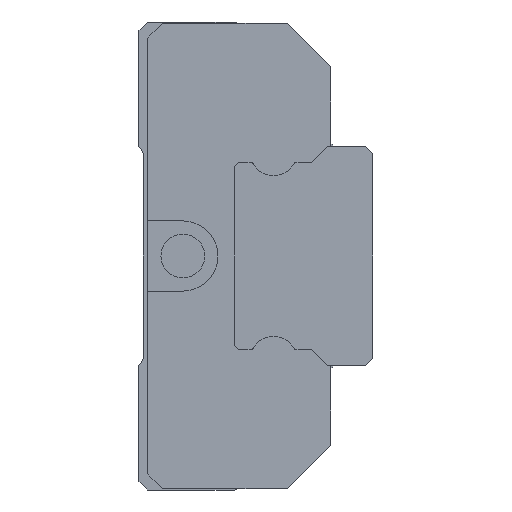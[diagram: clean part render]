
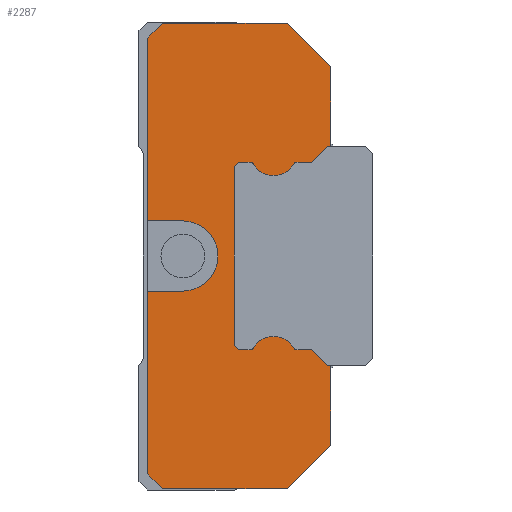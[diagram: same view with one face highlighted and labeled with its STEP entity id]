
A CAD part, left-side view. The second image highlights one B-rep face of the part: STEP entity #2287.
In plain terms, the highlighted planar face has unit normal (-1, 0, 0).
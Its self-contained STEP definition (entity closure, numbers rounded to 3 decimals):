
#80=CIRCLE('',#2463,2.4);
#81=CIRCLE('',#2464,0.15);
#82=CIRCLE('',#2465,1.6);
#83=CIRCLE('',#2466,0.15);
#84=CIRCLE('',#2467,0.15);
#85=CIRCLE('',#2468,1.6);
#86=CIRCLE('',#2469,0.15);
#254=ORIENTED_EDGE('',*,*,#838,.T.);
#255=ORIENTED_EDGE('',*,*,#839,.T.);
#256=ORIENTED_EDGE('',*,*,#840,.T.);
#257=ORIENTED_EDGE('',*,*,#836,.F.);
#258=ORIENTED_EDGE('',*,*,#841,.F.);
#259=ORIENTED_EDGE('',*,*,#842,.F.);
#260=ORIENTED_EDGE('',*,*,#843,.F.);
#261=ORIENTED_EDGE('',*,*,#844,.F.);
#262=ORIENTED_EDGE('',*,*,#845,.T.);
#263=ORIENTED_EDGE('',*,*,#846,.T.);
#264=ORIENTED_EDGE('',*,*,#847,.T.);
#265=ORIENTED_EDGE('',*,*,#848,.T.);
#266=ORIENTED_EDGE('',*,*,#849,.F.);
#267=ORIENTED_EDGE('',*,*,#850,.T.);
#268=ORIENTED_EDGE('',*,*,#851,.T.);
#269=ORIENTED_EDGE('',*,*,#852,.T.);
#270=ORIENTED_EDGE('',*,*,#853,.T.);
#271=ORIENTED_EDGE('',*,*,#854,.T.);
#272=ORIENTED_EDGE('',*,*,#855,.T.);
#273=ORIENTED_EDGE('',*,*,#856,.T.);
#274=ORIENTED_EDGE('',*,*,#857,.F.);
#275=ORIENTED_EDGE('',*,*,#858,.T.);
#276=ORIENTED_EDGE('',*,*,#859,.T.);
#277=ORIENTED_EDGE('',*,*,#860,.T.);
#278=ORIENTED_EDGE('',*,*,#861,.T.);
#279=ORIENTED_EDGE('',*,*,#862,.F.);
#280=ORIENTED_EDGE('',*,*,#863,.F.);
#281=ORIENTED_EDGE('',*,*,#864,.F.);
#282=ORIENTED_EDGE('',*,*,#865,.F.);
#283=ORIENTED_EDGE('',*,*,#832,.F.);
#832=EDGE_CURVE('',#1138,#1139,#1358,.T.);
#836=EDGE_CURVE('',#1142,#1143,#1362,.T.);
#838=EDGE_CURVE('',#1138,#1144,#1364,.T.);
#839=EDGE_CURVE('',#1144,#1145,#80,.T.);
#840=EDGE_CURVE('',#1145,#1143,#1365,.T.);
#841=EDGE_CURVE('',#1146,#1142,#1366,.T.);
#842=EDGE_CURVE('',#1147,#1146,#1367,.T.);
#843=EDGE_CURVE('',#1148,#1147,#1368,.T.);
#844=EDGE_CURVE('',#1149,#1148,#1369,.T.);
#845=EDGE_CURVE('',#1149,#1150,#1370,.T.);
#846=EDGE_CURVE('',#1150,#1151,#1371,.T.);
#847=EDGE_CURVE('',#1151,#1152,#1372,.T.);
#848=EDGE_CURVE('',#1152,#1153,#81,.T.);
#849=EDGE_CURVE('',#1154,#1153,#82,.T.);
#850=EDGE_CURVE('',#1154,#1155,#83,.T.);
#851=EDGE_CURVE('',#1155,#1156,#1373,.T.);
#852=EDGE_CURVE('',#1156,#1157,#1374,.T.);
#853=EDGE_CURVE('',#1157,#1158,#1375,.T.);
#854=EDGE_CURVE('',#1158,#1159,#1376,.T.);
#855=EDGE_CURVE('',#1159,#1160,#1377,.T.);
#856=EDGE_CURVE('',#1160,#1161,#84,.T.);
#857=EDGE_CURVE('',#1162,#1161,#85,.T.);
#858=EDGE_CURVE('',#1162,#1163,#86,.T.);
#859=EDGE_CURVE('',#1163,#1164,#1378,.T.);
#860=EDGE_CURVE('',#1164,#1165,#1379,.T.);
#861=EDGE_CURVE('',#1165,#1166,#1380,.T.);
#862=EDGE_CURVE('',#1167,#1166,#1381,.T.);
#863=EDGE_CURVE('',#1168,#1167,#1382,.T.);
#864=EDGE_CURVE('',#1169,#1168,#1383,.T.);
#865=EDGE_CURVE('',#1139,#1169,#1384,.T.);
#1138=VERTEX_POINT('',#3381);
#1139=VERTEX_POINT('',#3383);
#1142=VERTEX_POINT('',#3389);
#1143=VERTEX_POINT('',#3391);
#1144=VERTEX_POINT('',#3395);
#1145=VERTEX_POINT('',#3397);
#1146=VERTEX_POINT('',#3400);
#1147=VERTEX_POINT('',#3402);
#1148=VERTEX_POINT('',#3404);
#1149=VERTEX_POINT('',#3406);
#1150=VERTEX_POINT('',#3408);
#1151=VERTEX_POINT('',#3410);
#1152=VERTEX_POINT('',#3412);
#1153=VERTEX_POINT('',#3414);
#1154=VERTEX_POINT('',#3416);
#1155=VERTEX_POINT('',#3418);
#1156=VERTEX_POINT('',#3420);
#1157=VERTEX_POINT('',#3422);
#1158=VERTEX_POINT('',#3424);
#1159=VERTEX_POINT('',#3426);
#1160=VERTEX_POINT('',#3428);
#1161=VERTEX_POINT('',#3430);
#1162=VERTEX_POINT('',#3432);
#1163=VERTEX_POINT('',#3434);
#1164=VERTEX_POINT('',#3436);
#1165=VERTEX_POINT('',#3438);
#1166=VERTEX_POINT('',#3440);
#1167=VERTEX_POINT('',#3442);
#1168=VERTEX_POINT('',#3444);
#1169=VERTEX_POINT('',#3446);
#1358=LINE('',#3382,#1634);
#1362=LINE('',#3390,#1638);
#1364=LINE('',#3394,#1640);
#1365=LINE('',#3398,#1641);
#1366=LINE('',#3399,#1642);
#1367=LINE('',#3401,#1643);
#1368=LINE('',#3403,#1644);
#1369=LINE('',#3405,#1645);
#1370=LINE('',#3407,#1646);
#1371=LINE('',#3409,#1647);
#1372=LINE('',#3411,#1648);
#1373=LINE('',#3419,#1649);
#1374=LINE('',#3421,#1650);
#1375=LINE('',#3423,#1651);
#1376=LINE('',#3425,#1652);
#1377=LINE('',#3427,#1653);
#1378=LINE('',#3435,#1654);
#1379=LINE('',#3437,#1655);
#1380=LINE('',#3439,#1656);
#1381=LINE('',#3441,#1657);
#1382=LINE('',#3443,#1658);
#1383=LINE('',#3445,#1659);
#1384=LINE('',#3447,#1660);
#1634=VECTOR('',#2744,1000.);
#1638=VECTOR('',#2748,1000.);
#1640=VECTOR('',#2752,1000.);
#1641=VECTOR('',#2755,1000.);
#1642=VECTOR('',#2756,1000.);
#1643=VECTOR('',#2757,1000.);
#1644=VECTOR('',#2758,1000.);
#1645=VECTOR('',#2759,1000.);
#1646=VECTOR('',#2760,1000.);
#1647=VECTOR('',#2761,1000.);
#1648=VECTOR('',#2762,1000.);
#1649=VECTOR('',#2769,1000.);
#1650=VECTOR('',#2770,1000.);
#1651=VECTOR('',#2771,1000.);
#1652=VECTOR('',#2772,1000.);
#1653=VECTOR('',#2773,1000.);
#1654=VECTOR('',#2780,1000.);
#1655=VECTOR('',#2781,1000.);
#1656=VECTOR('',#2782,1000.);
#1657=VECTOR('',#2783,1000.);
#1658=VECTOR('',#2784,1000.);
#1659=VECTOR('',#2785,1000.);
#1660=VECTOR('',#2786,1000.);
#1899=EDGE_LOOP('',(#254,#255,#256,#257,#258,#259,#260,#261,#262,#263,#264,
#265,#266,#267,#268,#269,#270,#271,#272,#273,#274,#275,#276,#277,#278,#279,
#280,#281,#282,#283));
#2047=FACE_BOUND('',#1899,.T.);
#2177=PLANE('',#2462);
#2287=ADVANCED_FACE('',(#2047),#2177,.F.);
#2462=AXIS2_PLACEMENT_3D('',#3393,#2750,#2751);
#2463=AXIS2_PLACEMENT_3D('',#3396,#2753,#2754);
#2464=AXIS2_PLACEMENT_3D('',#3413,#2763,#2764);
#2465=AXIS2_PLACEMENT_3D('',#3415,#2765,#2766);
#2466=AXIS2_PLACEMENT_3D('',#3417,#2767,#2768);
#2467=AXIS2_PLACEMENT_3D('',#3429,#2774,#2775);
#2468=AXIS2_PLACEMENT_3D('',#3431,#2776,#2777);
#2469=AXIS2_PLACEMENT_3D('',#3433,#2778,#2779);
#2744=DIRECTION('',(0.,0.,1.));
#2748=DIRECTION('',(0.,0.,1.));
#2750=DIRECTION('',(1.,0.,0.));
#2751=DIRECTION('',(0.,0.,-1.));
#2752=DIRECTION('',(0.,-1.,0.));
#2753=DIRECTION('',(1.,0.,0.));
#2754=DIRECTION('',(0.,0.,-1.));
#2755=DIRECTION('',(0.,1.,0.));
#2756=DIRECTION('',(0.,0.707,0.707));
#2757=DIRECTION('',(0.,1.,0.));
#2758=DIRECTION('',(0.,0.707,-0.707));
#2759=DIRECTION('',(0.,0.,-1.));
#2760=DIRECTION('',(0.,1.,0.));
#2761=DIRECTION('',(0.,0.707,0.707));
#2762=DIRECTION('',(0.,1.,0.));
#2763=DIRECTION('',(1.,0.,0.));
#2764=DIRECTION('',(0.,0.,-1.));
#2765=DIRECTION('',(1.,0.,0.));
#2766=DIRECTION('',(0.,0.,-1.));
#2767=DIRECTION('',(1.,0.,0.));
#2768=DIRECTION('',(0.,0.,-1.));
#2769=DIRECTION('',(0.,1.,0.));
#2770=DIRECTION('',(0.,0.707,0.707));
#2771=DIRECTION('',(0.,0.,1.));
#2772=DIRECTION('',(0.,-0.707,0.707));
#2773=DIRECTION('',(0.,-1.,0.));
#2774=DIRECTION('',(1.,0.,0.));
#2775=DIRECTION('',(0.,0.,-1.));
#2776=DIRECTION('',(1.,0.,0.));
#2777=DIRECTION('',(0.,0.,-1.));
#2778=DIRECTION('',(1.,0.,0.));
#2779=DIRECTION('',(0.,0.,-1.));
#2780=DIRECTION('',(0.,-1.,0.));
#2781=DIRECTION('',(0.,-0.707,0.707));
#2782=DIRECTION('',(0.,-1.,0.));
#2783=DIRECTION('',(0.,0.,-1.));
#2784=DIRECTION('',(0.,-0.707,-0.707));
#2785=DIRECTION('',(0.,-1.,0.));
#2786=DIRECTION('',(0.,-0.707,0.707));
#3381=CARTESIAN_POINT('',(-16.,12.7,2.4));
#3382=CARTESIAN_POINT('',(-16.,12.7,-14.9));
#3383=CARTESIAN_POINT('',(-16.,12.7,14.9));
#3389=CARTESIAN_POINT('',(-16.,12.7,-14.9));
#3390=CARTESIAN_POINT('',(-16.,12.7,-14.9));
#3391=CARTESIAN_POINT('',(-16.,12.7,-2.4));
#3393=CARTESIAN_POINT('',(-16.,0.,0.));
#3394=CARTESIAN_POINT('',(-16.,13.3,2.4));
#3395=CARTESIAN_POINT('',(-16.,10.3,2.4));
#3396=CARTESIAN_POINT('',(-16.,10.3,0.));
#3397=CARTESIAN_POINT('',(-16.,10.3,-2.4));
#3398=CARTESIAN_POINT('',(-16.,10.3,-2.4));
#3399=CARTESIAN_POINT('',(-16.,11.7,-15.9));
#3400=CARTESIAN_POINT('',(-16.,11.7,-15.9));
#3401=CARTESIAN_POINT('',(-16.,3.16,-15.9));
#3402=CARTESIAN_POINT('',(-16.,3.16,-15.9));
#3403=CARTESIAN_POINT('',(-16.,0.2,-12.94));
#3404=CARTESIAN_POINT('',(-16.,0.2,-12.94));
#3405=CARTESIAN_POINT('',(-16.,0.2,12.94));
#3406=CARTESIAN_POINT('',(-16.,0.2,-7.5));
#3407=CARTESIAN_POINT('',(-16.,-2.2,-7.5));
#3408=CARTESIAN_POINT('',(-16.,0.4,-7.5));
#3409=CARTESIAN_POINT('',(-16.,0.4,-7.5));
#3410=CARTESIAN_POINT('',(-16.,1.5,-6.4));
#3411=CARTESIAN_POINT('',(-16.,1.5,-6.4));
#3412=CARTESIAN_POINT('',(-16.,2.57,-6.4));
#3413=CARTESIAN_POINT('',(-16.,2.57,-6.25));
#3414=CARTESIAN_POINT('',(-16.,2.701,-6.323));
#3415=CARTESIAN_POINT('',(-16.,4.1,-7.1));
#3416=CARTESIAN_POINT('',(-16.,5.499,-6.323));
#3417=CARTESIAN_POINT('',(-16.,5.63,-6.25));
#3418=CARTESIAN_POINT('',(-16.,5.63,-6.4));
#3419=CARTESIAN_POINT('',(-16.,5.63,-6.4));
#3420=CARTESIAN_POINT('',(-16.,6.5,-6.4));
#3421=CARTESIAN_POINT('',(-16.,6.5,-6.4));
#3422=CARTESIAN_POINT('',(-16.,6.8,-6.1));
#3423=CARTESIAN_POINT('',(-16.,6.8,-6.1));
#3424=CARTESIAN_POINT('',(-16.,6.8,6.1));
#3425=CARTESIAN_POINT('',(-16.,6.8,6.1));
#3426=CARTESIAN_POINT('',(-16.,6.5,6.4));
#3427=CARTESIAN_POINT('',(-16.,6.5,6.4));
#3428=CARTESIAN_POINT('',(-16.,5.63,6.4));
#3429=CARTESIAN_POINT('',(-16.,5.63,6.25));
#3430=CARTESIAN_POINT('',(-16.,5.499,6.323));
#3431=CARTESIAN_POINT('',(-16.,4.1,7.1));
#3432=CARTESIAN_POINT('',(-16.,2.701,6.323));
#3433=CARTESIAN_POINT('',(-16.,2.57,6.25));
#3434=CARTESIAN_POINT('',(-16.,2.57,6.4));
#3435=CARTESIAN_POINT('',(-16.,2.57,6.4));
#3436=CARTESIAN_POINT('',(-16.,1.5,6.4));
#3437=CARTESIAN_POINT('',(-16.,1.5,6.4));
#3438=CARTESIAN_POINT('',(-16.,0.4,7.5));
#3439=CARTESIAN_POINT('',(-16.,0.4,7.5));
#3440=CARTESIAN_POINT('',(-16.,0.2,7.5));
#3441=CARTESIAN_POINT('',(-16.,0.2,12.94));
#3442=CARTESIAN_POINT('',(-16.,0.2,12.94));
#3443=CARTESIAN_POINT('',(-16.,3.16,15.9));
#3444=CARTESIAN_POINT('',(-16.,3.16,15.9));
#3445=CARTESIAN_POINT('',(-16.,11.7,15.9));
#3446=CARTESIAN_POINT('',(-16.,11.7,15.9));
#3447=CARTESIAN_POINT('',(-16.,12.7,14.9));
